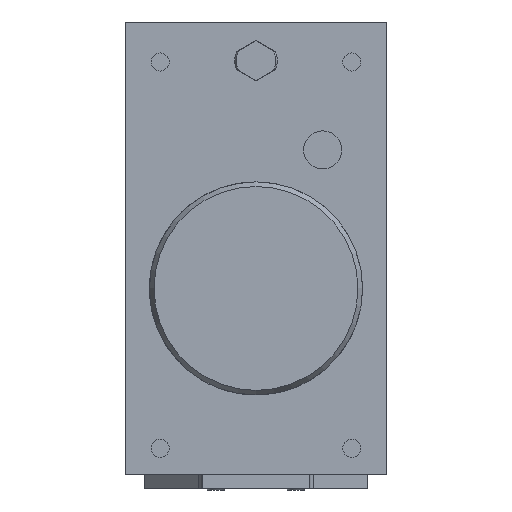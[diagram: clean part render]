
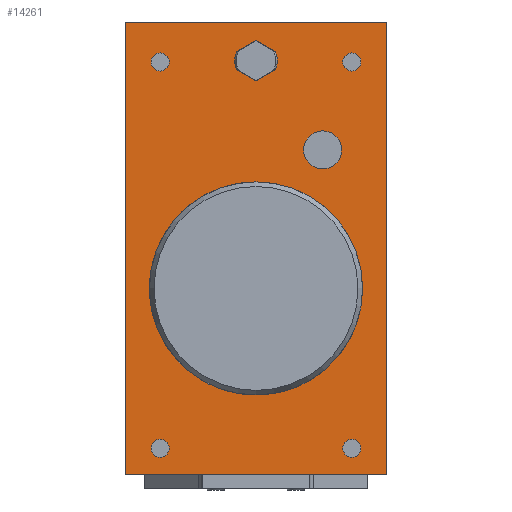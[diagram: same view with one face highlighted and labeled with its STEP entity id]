
A CAD part, left-side view. The second image highlights one B-rep face of the part: STEP entity #14261.
In plain terms, the highlighted planar face has unit normal (-1, 0, 0).
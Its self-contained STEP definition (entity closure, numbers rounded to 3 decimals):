
#6347=CIRCLE('',#13573,7.135);
#6348=CIRCLE('',#13574,40.);
#6349=CIRCLE('',#13575,8.);
#6350=CIRCLE('',#13576,8.);
#6351=CIRCLE('',#13577,3.4);
#6352=CIRCLE('',#13578,3.4);
#6353=CIRCLE('',#13579,3.4);
#6354=CIRCLE('',#13580,3.4);
#6568=ORIENTED_EDGE('',*,*,#9107,.F.);
#6569=ORIENTED_EDGE('',*,*,#9105,.F.);
#6570=ORIENTED_EDGE('',*,*,#9055,.F.);
#6571=ORIENTED_EDGE('',*,*,#9064,.F.);
#6572=ORIENTED_EDGE('',*,*,#9108,.F.);
#6573=ORIENTED_EDGE('',*,*,#9109,.F.);
#6574=ORIENTED_EDGE('',*,*,#9110,.F.);
#6575=ORIENTED_EDGE('',*,*,#9111,.F.);
#6576=ORIENTED_EDGE('',*,*,#9112,.F.);
#6577=ORIENTED_EDGE('',*,*,#9113,.F.);
#6578=ORIENTED_EDGE('',*,*,#9114,.F.);
#6579=ORIENTED_EDGE('',*,*,#9115,.F.);
#6580=ORIENTED_EDGE('',*,*,#9116,.T.);
#6581=ORIENTED_EDGE('',*,*,#9117,.T.);
#6582=ORIENTED_EDGE('',*,*,#9118,.T.);
#6583=ORIENTED_EDGE('',*,*,#9119,.T.);
#7740=VECTOR('',#10523,1.);
#7748=VECTOR('',#10535,1.);
#7777=VECTOR('',#10602,1.);
#7779=VECTOR('',#10606,1.);
#7780=VECTOR('',#10613,1.);
#7781=VECTOR('',#10614,1.);
#7782=VECTOR('',#10617,1.);
#7783=VECTOR('',#10618,1.);
#8179=LINE('',#11926,#7740);
#8187=LINE('',#11944,#7748);
#8216=LINE('',#12024,#7777);
#8218=LINE('',#12027,#7779);
#8219=LINE('',#12036,#7780);
#8220=LINE('',#12038,#7781);
#8221=LINE('',#12042,#7782);
#8222=LINE('',#12043,#7783);
#8617=VERTEX_POINT('',#11922);
#8619=VERTEX_POINT('',#11925);
#8627=VERTEX_POINT('',#11942);
#8659=VERTEX_POINT('',#12023);
#8660=VERTEX_POINT('',#12028);
#8661=VERTEX_POINT('',#12030);
#8662=VERTEX_POINT('',#12032);
#8663=VERTEX_POINT('',#12033);
#8664=VERTEX_POINT('',#12035);
#8665=VERTEX_POINT('',#12037);
#8666=VERTEX_POINT('',#12039);
#8667=VERTEX_POINT('',#12041);
#8668=VERTEX_POINT('',#12044);
#8669=VERTEX_POINT('',#12046);
#8670=VERTEX_POINT('',#12048);
#8671=VERTEX_POINT('',#12050);
#9055=EDGE_CURVE('',#8617,#8619,#8179,.T.);
#9064=EDGE_CURVE('',#8627,#8617,#8187,.T.);
#9105=EDGE_CURVE('',#8619,#8659,#8216,.T.);
#9107=EDGE_CURVE('',#8659,#8627,#8218,.T.);
#9108=EDGE_CURVE('',#8660,#8660,#6347,.T.);
#9109=EDGE_CURVE('',#8661,#8661,#6348,.T.);
#9110=EDGE_CURVE('',#8662,#8663,#6349,.T.);
#9111=EDGE_CURVE('',#8664,#8662,#8219,.T.);
#9112=EDGE_CURVE('',#8665,#8664,#8220,.T.);
#9113=EDGE_CURVE('',#8666,#8665,#6350,.T.);
#9114=EDGE_CURVE('',#8667,#8666,#8221,.T.);
#9115=EDGE_CURVE('',#8663,#8667,#8222,.T.);
#9116=EDGE_CURVE('',#8668,#8668,#6351,.T.);
#9117=EDGE_CURVE('',#8669,#8669,#6352,.T.);
#9118=EDGE_CURVE('',#8670,#8670,#6353,.T.);
#9119=EDGE_CURVE('',#8671,#8671,#6354,.T.);
#9690=EDGE_LOOP('',(#6568,#6569,#6570,#6571));
#9691=EDGE_LOOP('',(#6572));
#9692=EDGE_LOOP('',(#6573));
#9693=EDGE_LOOP('',(#6574,#6575,#6576,#6577,#6578,#6579));
#9694=EDGE_LOOP('',(#6580));
#9695=EDGE_LOOP('',(#6581));
#9696=EDGE_LOOP('',(#6582));
#9697=EDGE_LOOP('',(#6583));
#10109=FACE_BOUND('',#9690,.T.);
#10110=FACE_BOUND('',#9691,.T.);
#10111=FACE_BOUND('',#9692,.T.);
#10112=FACE_BOUND('',#9693,.T.);
#10113=FACE_BOUND('',#9694,.T.);
#10114=FACE_BOUND('',#9695,.T.);
#10115=FACE_BOUND('',#9696,.T.);
#10116=FACE_BOUND('',#9697,.T.);
#10523=DIRECTION('',(0.,0.,170.));
#10535=DIRECTION('',(0.,98.,0.));
#10602=DIRECTION('',(0.,-98.,0.));
#10604=DIRECTION('',(-1.,0.,0.));
#10605=DIRECTION('',(0.,1.,0.));
#10606=DIRECTION('',(0.,0.,-170.));
#10607=DIRECTION('',(-1.,0.,0.));
#10608=DIRECTION('',(0.,7.135,0.));
#10609=DIRECTION('',(-1.,0.,0.));
#10610=DIRECTION('',(0.,40.,0.));
#10611=DIRECTION('',(-1.,0.,0.));
#10612=DIRECTION('',(0.,7.289,3.297));
#10613=DIRECTION('',(0.,7.289,-4.208));
#10614=DIRECTION('',(0.,7.289,4.208));
#10615=DIRECTION('',(-1.,0.,0.));
#10616=DIRECTION('',(0.,-7.289,-3.297));
#10617=DIRECTION('',(0.,-7.289,4.208));
#10618=DIRECTION('',(0.,-7.289,-4.208));
#10619=DIRECTION('',(1.,0.,0.));
#10620=DIRECTION('',(0.,0.,3.4));
#10621=DIRECTION('',(1.,0.,0.));
#10622=DIRECTION('',(0.,0.,3.4));
#10623=DIRECTION('',(1.,0.,0.));
#10624=DIRECTION('',(0.,0.,3.4));
#10625=DIRECTION('',(1.,0.,0.));
#10626=DIRECTION('',(0.,0.,3.4));
#11922=CARTESIAN_POINT('',(0.,49.,-70.));
#11925=CARTESIAN_POINT('',(0.,49.,100.));
#11926=CARTESIAN_POINT('',(0.,49.,-70.));
#11942=CARTESIAN_POINT('',(0.,-49.,-70.));
#11944=CARTESIAN_POINT('',(0.,-49.,-70.));
#12023=CARTESIAN_POINT('',(0.,-49.,100.));
#12024=CARTESIAN_POINT('',(0.,49.,100.));
#12026=CARTESIAN_POINT('',(0.,-49.,100.));
#12027=CARTESIAN_POINT('',(0.,-49.,100.));
#12028=CARTESIAN_POINT('',(0.,-17.865,52.));
#12029=CARTESIAN_POINT('',(0.,-25.,52.));
#12030=CARTESIAN_POINT('',(0.,17.601,35.92));
#12031=CARTESIAN_POINT('',(0.,0.,0.));
#12032=CARTESIAN_POINT('',(0.,7.289,88.797));
#12033=CARTESIAN_POINT('',(0.,7.289,82.203));
#12034=CARTESIAN_POINT('',(0.,0.,85.5));
#12035=CARTESIAN_POINT('',(0.,0.,93.006));
#12036=CARTESIAN_POINT('',(0.,0.,93.006));
#12037=CARTESIAN_POINT('',(0.,-7.289,88.797));
#12038=CARTESIAN_POINT('',(0.,-7.289,88.797));
#12039=CARTESIAN_POINT('',(0.,-7.289,82.203));
#12040=CARTESIAN_POINT('',(0.,0.,85.5));
#12041=CARTESIAN_POINT('',(0.,0.,77.994));
#12042=CARTESIAN_POINT('',(0.,0.,77.994));
#12043=CARTESIAN_POINT('',(0.,7.289,82.203));
#12044=CARTESIAN_POINT('',(0.,36.,88.4));
#12045=CARTESIAN_POINT('',(0.,36.,85.));
#12046=CARTESIAN_POINT('',(0.,-36.,88.4));
#12047=CARTESIAN_POINT('',(0.,-36.,85.));
#12048=CARTESIAN_POINT('',(0.,36.,-56.6));
#12049=CARTESIAN_POINT('',(0.,36.,-60.));
#12050=CARTESIAN_POINT('',(0.,-36.,-56.6));
#12051=CARTESIAN_POINT('',(0.,-36.,-60.));
#13572=AXIS2_PLACEMENT_3D('',#12026,#10604,#10605);
#13573=AXIS2_PLACEMENT_3D('',#12029,#10607,#10608);
#13574=AXIS2_PLACEMENT_3D('',#12031,#10609,#10610);
#13575=AXIS2_PLACEMENT_3D('',#12034,#10611,#10612);
#13576=AXIS2_PLACEMENT_3D('',#12040,#10615,#10616);
#13577=AXIS2_PLACEMENT_3D('',#12045,#10619,#10620);
#13578=AXIS2_PLACEMENT_3D('',#12047,#10621,#10622);
#13579=AXIS2_PLACEMENT_3D('',#12049,#10623,#10624);
#13580=AXIS2_PLACEMENT_3D('',#12051,#10625,#10626);
#14039=PLANE('',#13572);
#14261=ADVANCED_FACE('',(#10109,#10110,#10111,#10112,#10113,#10114,#10115,
#10116),#14039,.T.);
